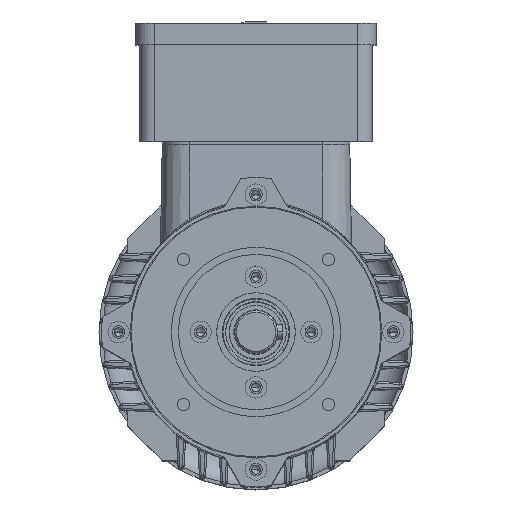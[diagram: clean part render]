
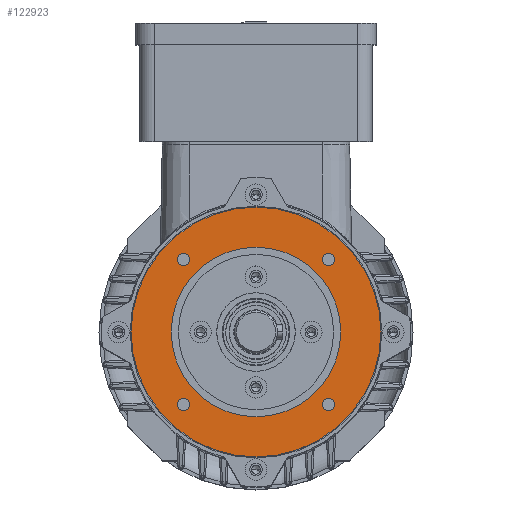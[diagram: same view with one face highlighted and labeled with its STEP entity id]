
A CAD part, top view. The second image highlights one B-rep face of the part: STEP entity #122923.
In plain terms, the highlighted planar face has unit normal (0, 0, 1).
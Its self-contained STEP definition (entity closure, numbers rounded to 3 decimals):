
#66 = EDGE_CURVE ( 'NONE', #49850, #85573, #120425, .T. ) ;
#1957 = CARTESIAN_POINT ( 'NONE',  ( 40.659, 40.659, 136.5 ) ) ;
#3008 = CARTESIAN_POINT ( 'NONE',  ( -37.259, -40.659, 136.5 ) ) ;
#3043 = VERTEX_POINT ( 'NONE', #83962 ) ;
#3608 = CARTESIAN_POINT ( 'NONE',  ( 47.5, 0., 136.5 ) ) ;
#4356 = DIRECTION ( 'NONE',  ( 0., 0., 1. ) ) ;
#6708 = ORIENTED_EDGE ( 'NONE', *, *, #68415, .F. ) ;
#7750 = EDGE_LOOP ( 'NONE', ( #61444, #69786 ) ) ;
#8759 = FACE_BOUND ( 'NONE', #112697, .T. ) ;
#10153 = DIRECTION ( 'NONE',  ( 1., 0., 0. ) ) ;
#10627 = CIRCLE ( 'NONE', #51675, 47.5 ) ;
#11505 = DIRECTION ( 'NONE',  ( 1., 0., 0. ) ) ;
#11657 = ORIENTED_EDGE ( 'NONE', *, *, #97696, .F. ) ;
#12278 = DIRECTION ( 'NONE',  ( -1., 0., 0. ) ) ;
#12993 = VERTEX_POINT ( 'NONE', #3608 ) ;
#14299 = VERTEX_POINT ( 'NONE', #81254 ) ;
#14562 = CARTESIAN_POINT ( 'NONE',  ( -40.659, 40.659, 136.5 ) ) ;
#14764 = VERTEX_POINT ( 'NONE', #18464 ) ;
#15291 = CARTESIAN_POINT ( 'NONE',  ( 70., 0., 136.5 ) ) ;
#17593 = EDGE_LOOP ( 'NONE', ( #51925, #88925 ) ) ;
#18464 = CARTESIAN_POINT ( 'NONE',  ( -47.5, 0., 136.5 ) ) ;
#20509 = DIRECTION ( 'NONE',  ( 0., 0., 1. ) ) ;
#21260 = DIRECTION ( 'NONE',  ( 1., 0., 0. ) ) ;
#22424 = PLANE ( 'NONE',  #48186 ) ;
#23364 = CARTESIAN_POINT ( 'NONE',  ( 0., 0., 136.5 ) ) ;
#24199 = CARTESIAN_POINT ( 'NONE',  ( 40.659, -40.659, 136.5 ) ) ;
#26642 = CIRCLE ( 'NONE', #81770, 3.4 ) ;
#26986 = CARTESIAN_POINT ( 'NONE',  ( 0., 0., 136.5 ) ) ;
#27628 = DIRECTION ( 'NONE',  ( 1., 0., 0. ) ) ;
#29025 = CARTESIAN_POINT ( 'NONE',  ( -44.059, -40.659, 136.5 ) ) ;
#31355 = DIRECTION ( 'NONE',  ( 0., 0., 1. ) ) ;
#32915 = CARTESIAN_POINT ( 'NONE',  ( -37.259, 40.659, 136.5 ) ) ;
#33468 = CARTESIAN_POINT ( 'NONE',  ( 0., 47.5, 136.5 ) ) ;
#36474 = CIRCLE ( 'NONE', #45174, 3.4 ) ;
#38322 = EDGE_CURVE ( 'NONE', #111214, #101552, #52990, .T. ) ;
#38793 = FACE_BOUND ( 'NONE', #7750, .T. ) ;
#38796 = DIRECTION ( 'NONE',  ( 1., 0., 0. ) ) ;
#41729 = AXIS2_PLACEMENT_3D ( 'NONE', #59666, #69420, #38796 ) ;
#42788 = CIRCLE ( 'NONE', #41729, 47.5 ) ;
#44475 = CARTESIAN_POINT ( 'NONE',  ( -44.059, 40.659, 136.5 ) ) ;
#45174 = AXIS2_PLACEMENT_3D ( 'NONE', #113911, #60451, #90578 ) ;
#47185 = EDGE_CURVE ( 'NONE', #12993, #14764, #42788, .T. ) ;
#47330 = ORIENTED_EDGE ( 'NONE', *, *, #50993, .T. ) ;
#48186 = AXIS2_PLACEMENT_3D ( 'NONE', #33468, #72952, #12278 ) ;
#48876 = DIRECTION ( 'NONE',  ( 0., 0., 1. ) ) ;
#49850 = VERTEX_POINT ( 'NONE', #86692 ) ;
#49883 = FACE_BOUND ( 'NONE', #17593, .T. ) ;
#50993 = EDGE_CURVE ( 'NONE', #85573, #49850, #79020, .T. ) ;
#51489 = DIRECTION ( 'NONE',  ( 0., 0., 1. ) ) ;
#51675 = AXIS2_PLACEMENT_3D ( 'NONE', #23364, #31355, #10153 ) ;
#51925 = ORIENTED_EDGE ( 'NONE', *, *, #47185, .F. ) ;
#52185 = ORIENTED_EDGE ( 'NONE', *, *, #55467, .F. ) ;
#52268 = CIRCLE ( 'NONE', #88952, 3.4 ) ;
#52990 = CIRCLE ( 'NONE', #87175, 3.4 ) ;
#54579 = DIRECTION ( 'NONE',  ( 0., 0., 1. ) ) ;
#55039 = CARTESIAN_POINT ( 'NONE',  ( 44.059, -40.659, 136.5 ) ) ;
#55467 = EDGE_CURVE ( 'NONE', #101552, #111214, #61350, .T. ) ;
#55749 = DIRECTION ( 'NONE',  ( 0., 0., 1. ) ) ;
#59666 = CARTESIAN_POINT ( 'NONE',  ( 0., 0., 136.5 ) ) ;
#60288 = CARTESIAN_POINT ( 'NONE',  ( 37.259, -40.659, 136.5 ) ) ;
#60451 = DIRECTION ( 'NONE',  ( 0., 0., 1. ) ) ;
#61350 = CIRCLE ( 'NONE', #114291, 3.4 ) ;
#61444 = ORIENTED_EDGE ( 'NONE', *, *, #128035, .F. ) ;
#61683 = DIRECTION ( 'NONE',  ( 1., 0., 0. ) ) ;
#62077 = EDGE_LOOP ( 'NONE', ( #11657, #75824 ) ) ;
#66258 = VERTEX_POINT ( 'NONE', #60288 ) ;
#67851 = AXIS2_PLACEMENT_3D ( 'NONE', #14562, #55749, #96003 ) ;
#68155 = VERTEX_POINT ( 'NONE', #44475 ) ;
#68415 = EDGE_CURVE ( 'NONE', #3043, #14299, #111595, .T. ) ;
#69420 = DIRECTION ( 'NONE',  ( 0., 0., 1. ) ) ;
#69786 = ORIENTED_EDGE ( 'NONE', *, *, #96733, .F. ) ;
#71307 = CARTESIAN_POINT ( 'NONE',  ( -40.659, -40.659, 136.5 ) ) ;
#72300 = ORIENTED_EDGE ( 'NONE', *, *, #38322, .F. ) ;
#72952 = DIRECTION ( 'NONE',  ( 0., 0., -1. ) ) ;
#75357 = DIRECTION ( 'NONE',  ( 1., 0., 0. ) ) ;
#75824 = ORIENTED_EDGE ( 'NONE', *, *, #130177, .F. ) ;
#76041 = AXIS2_PLACEMENT_3D ( 'NONE', #1957, #51489, #61683 ) ;
#79020 = CIRCLE ( 'NONE', #129512, 70. ) ;
#79750 = DIRECTION ( 'NONE',  ( 0., 0., 1. ) ) ;
#80868 = ORIENTED_EDGE ( 'NONE', *, *, #103082, .F. ) ;
#81245 = CARTESIAN_POINT ( 'NONE',  ( -40.659, -40.659, 136.5 ) ) ;
#81254 = CARTESIAN_POINT ( 'NONE',  ( 44.059, 40.659, 136.5 ) ) ;
#81770 = AXIS2_PLACEMENT_3D ( 'NONE', #24199, #4356, #95101 ) ;
#83270 = CARTESIAN_POINT ( 'NONE',  ( 40.659, -40.659, 136.5 ) ) ;
#83962 = CARTESIAN_POINT ( 'NONE',  ( 37.259, 40.659, 136.5 ) ) ;
#84854 = VERTEX_POINT ( 'NONE', #55039 ) ;
#85573 = VERTEX_POINT ( 'NONE', #15291 ) ;
#85669 = AXIS2_PLACEMENT_3D ( 'NONE', #126119, #54579, #75357 ) ;
#85971 = CIRCLE ( 'NONE', #113269, 3.4 ) ;
#86692 = CARTESIAN_POINT ( 'NONE',  ( -70., 0., 136.5 ) ) ;
#87175 = AXIS2_PLACEMENT_3D ( 'NONE', #71307, #121646, #11505 ) ;
#87483 = EDGE_CURVE ( 'NONE', #14764, #12993, #10627, .T. ) ;
#88306 = EDGE_LOOP ( 'NONE', ( #47330, #130464 ) ) ;
#88925 = ORIENTED_EDGE ( 'NONE', *, *, #87483, .F. ) ;
#88952 = AXIS2_PLACEMENT_3D ( 'NONE', #100217, #48876, #27628 ) ;
#90578 = DIRECTION ( 'NONE',  ( 1., 0., 0. ) ) ;
#91425 = DIRECTION ( 'NONE',  ( 1., 0., 0. ) ) ;
#93737 = EDGE_LOOP ( 'NONE', ( #80868, #6708 ) ) ;
#95101 = DIRECTION ( 'NONE',  ( 1., 0., 0. ) ) ;
#96003 = DIRECTION ( 'NONE',  ( 1., 0., 0. ) ) ;
#96733 = EDGE_CURVE ( 'NONE', #66258, #84854, #85971, .T. ) ;
#97168 = CIRCLE ( 'NONE', #67851, 3.4 ) ;
#97696 = EDGE_CURVE ( 'NONE', #102063, #68155, #52268, .T. ) ;
#97831 = DIRECTION ( 'NONE',  ( 1., 0., 0. ) ) ;
#99151 = DIRECTION ( 'NONE',  ( 0., 0., 1. ) ) ;
#100217 = CARTESIAN_POINT ( 'NONE',  ( -40.659, 40.659, 136.5 ) ) ;
#101552 = VERTEX_POINT ( 'NONE', #3008 ) ;
#102063 = VERTEX_POINT ( 'NONE', #32915 ) ;
#103082 = EDGE_CURVE ( 'NONE', #14299, #3043, #36474, .T. ) ;
#110010 = FACE_BOUND ( 'NONE', #62077, .T. ) ;
#111214 = VERTEX_POINT ( 'NONE', #29025 ) ;
#111595 = CIRCLE ( 'NONE', #76041, 3.4 ) ;
#112697 = EDGE_LOOP ( 'NONE', ( #52185, #72300 ) ) ;
#113199 = FACE_BOUND ( 'NONE', #93737, .T. ) ;
#113269 = AXIS2_PLACEMENT_3D ( 'NONE', #83270, #79750, #21260 ) ;
#113911 = CARTESIAN_POINT ( 'NONE',  ( 40.659, 40.659, 136.5 ) ) ;
#114291 = AXIS2_PLACEMENT_3D ( 'NONE', #81245, #20509, #91425 ) ;
#120425 = CIRCLE ( 'NONE', #85669, 70. ) ;
#121646 = DIRECTION ( 'NONE',  ( 0., 0., 1. ) ) ;
#122923 = ADVANCED_FACE ( 'NONE', ( #110010, #8759, #38793, #113199, #49883, #130551 ), #22424, .F. ) ;
#126119 = CARTESIAN_POINT ( 'NONE',  ( 0., 0., 136.5 ) ) ;
#128035 = EDGE_CURVE ( 'NONE', #84854, #66258, #26642, .T. ) ;
#129512 = AXIS2_PLACEMENT_3D ( 'NONE', #26986, #99151, #97831 ) ;
#130177 = EDGE_CURVE ( 'NONE', #68155, #102063, #97168, .T. ) ;
#130464 = ORIENTED_EDGE ( 'NONE', *, *, #66, .T. ) ;
#130551 = FACE_OUTER_BOUND ( 'NONE', #88306, .T. ) ;
